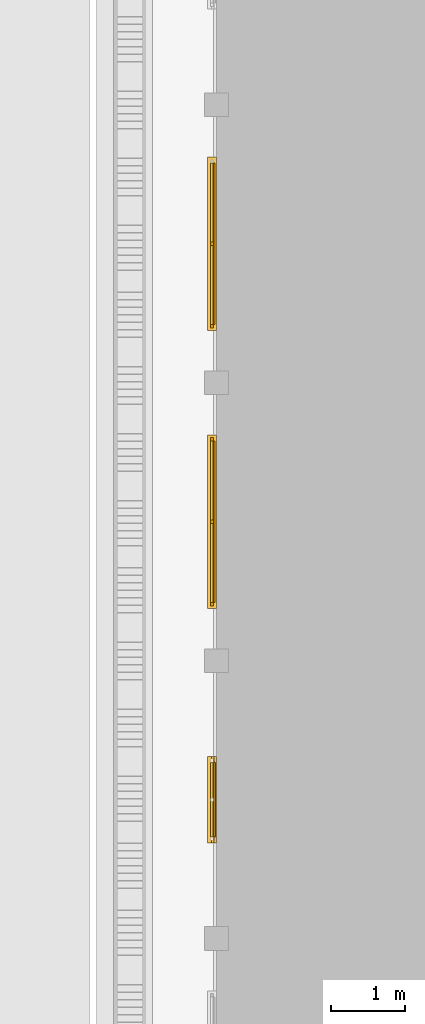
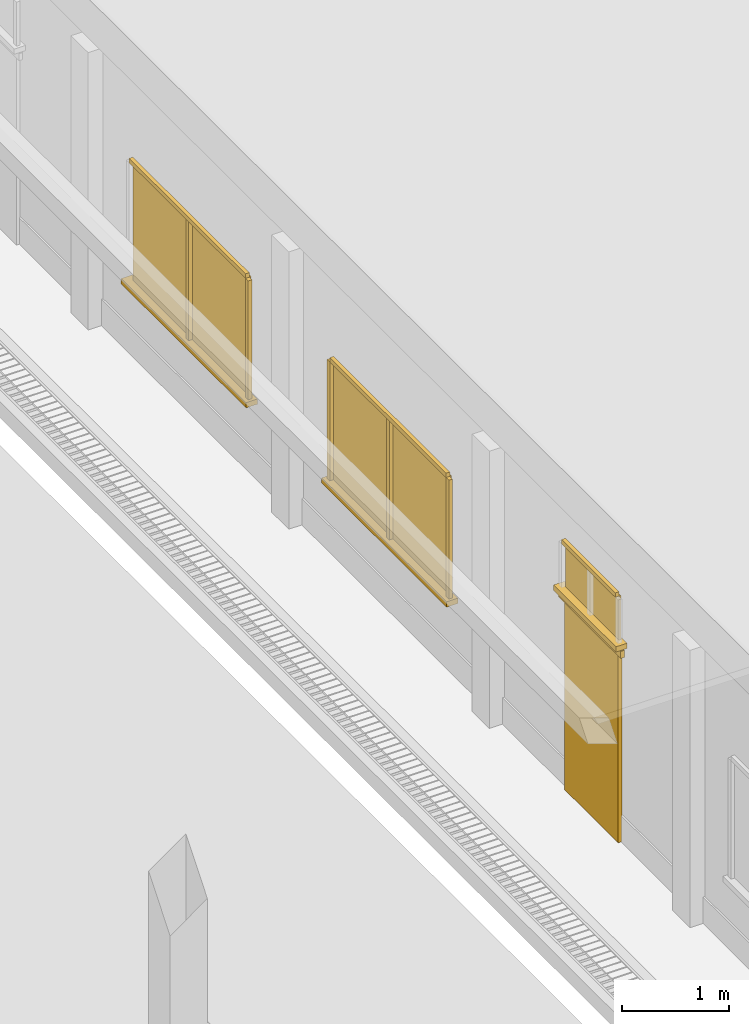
# One storey, part 36 of 151: 14 windows, 2 doors.
"""IFC2X3 building model written with IfcOpenShell, lengths in metres."""

from ifc_helpers import new_model, si_unit, origin, origin_with_axes, place, context, subcontext, project, spatial, faceted_brep, element, save


model = new_model("IFC2X3")

# Units and contexts
model_context = context("Model", 3, precision=1e-05, world=origin_with_axes())
body_context = subcontext(model_context, "Body", "Model", "MODEL_VIEW")
ifc_project = project(units=[si_unit("LENGTHUNIT", "METRE"), si_unit("AREAUNIT", "SQUARE_METRE"), si_unit("VOLUMEUNIT", "CUBIC_METRE"), si_unit("PLANEANGLEUNIT", "RADIAN")], contexts=[model_context])

# Site, building, storey
site_placement = place(None, origin_with_axes())
site = spatial("IfcSite", under=ifc_project, at=site_placement, Name="Predio Los Mangos - Morales, San Martín", CompositionType="ELEMENT")
building_placement = place(site_placement, origin())
building = spatial("IfcBuilding", under=site, at=building_placement, Name="Hogar de Refugio Temporal", CompositionType="ELEMENT")
storey_placement = place(building_placement, origin())
storey = spatial("IfcBuildingStorey", under=building, at=storey_placement, Name="NIVEL 1 (NPT +0.00)", CompositionType="ELEMENT", Elevation=0.0)

# Doors
door_1_placement = place(storey_placement, origin())
element("IfcDoor", 1, at=door_1_placement, inside=storey, Name="E-01_p1", ObjectType="Puerta", context=body_context, shape_type="Brep", body=[
    faceted_brep([(13.75, 31.4, 0.15), (13.75, 32.4, 0.15), (13.79, 32.4, 0.15), (13.79, 31.4, 0.15), (13.75, 31.4, 2.3), (13.79, 31.4, 2.3), (13.79, 32.4, 2.3), (13.75, 32.4, 2.3)], [[[0, 1, 2, 3]], [[4, 5, 6, 7]], [[0, 3, 5, 4]], [[3, 2, 6, 5]], [[2, 1, 7, 6]], [[1, 0, 4, 7]]]),
])
door_2_placement = place(storey_placement, origin())
element("IfcDoor", 2, at=door_2_placement, inside=storey, Name="E-01_p1_marco", ObjectType="Puerta", context=body_context, shape_type="Brep", body=[
    faceted_brep([(13.73, 31.32, 2.3), (13.73, 32.48, 2.3), (13.77, 32.48, 2.3), (13.77, 31.32, 2.3), (13.73, 31.32, 2.38), (13.77, 31.32, 2.38), (13.77, 32.48, 2.38), (13.73, 32.48, 2.38)], [[[0, 1, 2, 3]], [[4, 5, 6, 7]], [[0, 3, 5, 4]], [[3, 2, 6, 5]], [[2, 1, 7, 6]], [[1, 0, 4, 7]]]),
])

# Windows
window_1_placement = place(storey_placement, origin())
element("IfcWindow", 3, at=window_1_placement, inside=storey, Name="E-01_vt1_vid", ObjectType="Ventana", context=body_context, shape_type="Brep", body=[
    faceted_brep([(13.76, 31.4, 2.45), (13.76, 32.4, 2.45), (13.78, 32.4, 2.45), (13.78, 31.4, 2.45), (13.76, 31.4, 2.95), (13.78, 31.4, 2.95), (13.78, 32.4, 2.95), (13.76, 32.4, 2.95)], [[[0, 1, 2, 3]], [[4, 5, 6, 7]], [[0, 3, 5, 4]], [[3, 2, 6, 5]], [[2, 1, 7, 6]], [[1, 0, 4, 7]]]),
])
window_2_placement = place(storey_placement, origin())
element("IfcWindow", 4, at=window_2_placement, inside=storey, Name="E-01_vt1_m", ObjectType="Ventana", context=body_context, shape_type="Brep", body=[
    faceted_brep([(13.72, 31.4, 2.95), (13.72, 32.4, 2.95), (13.76, 32.4, 2.95), (13.76, 31.4, 2.95), (13.72, 31.4, 3.0), (13.76, 31.4, 3.0), (13.76, 32.4, 3.0), (13.72, 32.4, 3.0)], [[[0, 1, 2, 3]], [[4, 5, 6, 7]], [[0, 3, 5, 4]], [[3, 2, 6, 5]], [[2, 1, 7, 6]], [[1, 0, 4, 7]]]),
])
window_3_placement = place(storey_placement, origin())
element("IfcWindow", 5, at=window_3_placement, inside=storey, Name="E-01_vt1_alf", ObjectType="Ventana", context=body_context, shape_type="Brep", body=[
    faceted_brep([(13.8, 31.32, 2.39), (13.8, 32.48, 2.39), (13.68, 32.48, 2.39), (13.68, 31.32, 2.39), (13.8, 31.32, 2.45), (13.68, 31.32, 2.45), (13.68, 32.48, 2.45), (13.8, 32.48, 2.45)], [[[0, 1, 2, 3]], [[4, 5, 6, 7]], [[0, 3, 5, 4]], [[3, 2, 6, 5]], [[2, 1, 7, 6]], [[1, 0, 4, 7]]]),
])
window_4_placement = place(storey_placement, origin())
element("IfcWindow", 6, at=window_4_placement, inside=storey, Name="E-01_v2_vid", ObjectType="Ventana", context=body_context, shape_type="Brep", body=[
    faceted_brep([(13.76, 34.5507, 1.05), (13.76, 36.716, 1.05), (13.78, 36.716, 1.05), (13.78, 34.5507, 1.05), (13.76, 34.5507, 2.4), (13.78, 34.5507, 2.4), (13.78, 36.716, 2.4), (13.76, 36.716, 2.4)], [[[0, 1, 2, 3]], [[4, 5, 6, 7]], [[0, 3, 5, 4]], [[3, 2, 6, 5]], [[2, 1, 7, 6]], [[1, 0, 4, 7]]]),
])
window_5_placement = place(storey_placement, origin())
element("IfcWindow", 7, at=window_5_placement, inside=storey, Name="E-01_v2_m", ObjectType="Ventana", context=body_context, shape_type="Brep", body=[
    faceted_brep([(13.72, 34.5007, 1.05), (13.72, 34.5507, 1.05), (13.76, 34.5507, 1.05), (13.76, 34.5007, 1.05), (13.72, 34.5007, 2.4), (13.76, 34.5007, 2.4), (13.76, 34.5507, 2.4), (13.72, 34.5507, 2.4)], [[[0, 1, 2, 3]], [[4, 5, 6, 7]], [[0, 3, 5, 4]], [[3, 2, 6, 5]], [[2, 1, 7, 6]], [[1, 0, 4, 7]]]),
])
window_6_placement = place(storey_placement, origin())
element("IfcWindow", 8, at=window_6_placement, inside=storey, Name="E-01_v2_m", ObjectType="Ventana", context=body_context, shape_type="Brep", body=[
    faceted_brep([(13.72, 36.716, 1.05), (13.72, 36.766, 1.05), (13.76, 36.766, 1.05), (13.76, 36.716, 1.05), (13.72, 36.716, 2.4), (13.76, 36.716, 2.4), (13.76, 36.766, 2.4), (13.72, 36.766, 2.4)], [[[0, 1, 2, 3]], [[4, 5, 6, 7]], [[0, 3, 5, 4]], [[3, 2, 6, 5]], [[2, 1, 7, 6]], [[1, 0, 4, 7]]]),
])
window_7_placement = place(storey_placement, origin())
element("IfcWindow", 9, at=window_7_placement, inside=storey, Name="E-01_v2_m", ObjectType="Ventana", context=body_context, shape_type="Brep", body=[
    faceted_brep([(13.72, 34.5507, 2.4), (13.72, 36.716, 2.4), (13.76, 36.716, 2.4), (13.76, 34.5507, 2.4), (13.72, 34.5507, 2.45), (13.76, 34.5507, 2.45), (13.76, 36.716, 2.45), (13.72, 36.716, 2.45)], [[[0, 1, 2, 3]], [[4, 5, 6, 7]], [[0, 3, 5, 4]], [[3, 2, 6, 5]], [[2, 1, 7, 6]], [[1, 0, 4, 7]]]),
])
window_8_placement = place(storey_placement, origin())
element("IfcWindow", 10, at=window_8_placement, inside=storey, Name="E-01_v2_m", ObjectType="Ventana", context=body_context, shape_type="Brep", body=[
    faceted_brep([(13.72, 35.6083, 1.05), (13.72, 35.6583, 1.05), (13.76, 35.6583, 1.05), (13.76, 35.6083, 1.05), (13.72, 35.6083, 2.4), (13.76, 35.6083, 2.4), (13.76, 35.6583, 2.4), (13.72, 35.6583, 2.4)], [[[0, 1, 2, 3]], [[4, 5, 6, 7]], [[0, 3, 5, 4]], [[3, 2, 6, 5]], [[2, 1, 7, 6]], [[1, 0, 4, 7]]]),
])
window_9_placement = place(storey_placement, origin())
element("IfcWindow", 11, at=window_9_placement, inside=storey, Name="E-01_v2_alf", ObjectType="Ventana", context=body_context, shape_type="Brep", body=[
    faceted_brep([(13.8, 34.4707, 0.99), (13.8, 36.796, 0.99), (13.68, 36.796, 0.99), (13.68, 34.4707, 0.99), (13.8, 34.4707, 1.05), (13.68, 34.4707, 1.05), (13.68, 36.796, 1.05), (13.8, 36.796, 1.05)], [[[0, 1, 2, 3]], [[4, 5, 6, 7]], [[0, 3, 5, 4]], [[3, 2, 6, 5]], [[2, 1, 7, 6]], [[1, 0, 4, 7]]]),
])
window_10_placement = place(storey_placement, origin())
element("IfcWindow", 12, at=window_10_placement, inside=storey, Name="E-01_v3_vid", ObjectType="Ventana", context=body_context, shape_type="Brep", body=[
    faceted_brep([(13.76, 38.284, 1.05), (13.76, 40.4493, 1.05), (13.78, 40.4493, 1.05), (13.78, 38.284, 1.05), (13.76, 38.284, 2.4), (13.78, 38.284, 2.4), (13.78, 40.4493, 2.4), (13.76, 40.4493, 2.4)], [[[0, 1, 2, 3]], [[4, 5, 6, 7]], [[0, 3, 5, 4]], [[3, 2, 6, 5]], [[2, 1, 7, 6]], [[1, 0, 4, 7]]]),
])
window_11_placement = place(storey_placement, origin())
element("IfcWindow", 13, at=window_11_placement, inside=storey, Name="E-01_v3_m", ObjectType="Ventana", context=body_context, shape_type="Brep", body=[
    faceted_brep([(13.72, 38.234, 1.05), (13.72, 38.284, 1.05), (13.76, 38.284, 1.05), (13.76, 38.234, 1.05), (13.72, 38.234, 2.4), (13.76, 38.234, 2.4), (13.76, 38.284, 2.4), (13.72, 38.284, 2.4)], [[[0, 1, 2, 3]], [[4, 5, 6, 7]], [[0, 3, 5, 4]], [[3, 2, 6, 5]], [[2, 1, 7, 6]], [[1, 0, 4, 7]]]),
])
window_12_placement = place(storey_placement, origin())
element("IfcWindow", 14, at=window_12_placement, inside=storey, Name="E-01_v3_m", ObjectType="Ventana", context=body_context, shape_type="Brep", body=[
    faceted_brep([(13.72, 38.284, 2.4), (13.72, 40.4493, 2.4), (13.76, 40.4493, 2.4), (13.76, 38.284, 2.4), (13.72, 38.284, 2.45), (13.76, 38.284, 2.45), (13.76, 40.4493, 2.45), (13.72, 40.4493, 2.45)], [[[0, 1, 2, 3]], [[4, 5, 6, 7]], [[0, 3, 5, 4]], [[3, 2, 6, 5]], [[2, 1, 7, 6]], [[1, 0, 4, 7]]]),
])
window_13_placement = place(storey_placement, origin())
element("IfcWindow", 15, at=window_13_placement, inside=storey, Name="E-01_v3_m", ObjectType="Ventana", context=body_context, shape_type="Brep", body=[
    faceted_brep([(13.72, 39.3417, 1.05), (13.72, 39.3917, 1.05), (13.76, 39.3917, 1.05), (13.76, 39.3417, 1.05), (13.72, 39.3417, 2.4), (13.76, 39.3417, 2.4), (13.76, 39.3917, 2.4), (13.72, 39.3917, 2.4)], [[[0, 1, 2, 3]], [[4, 5, 6, 7]], [[0, 3, 5, 4]], [[3, 2, 6, 5]], [[2, 1, 7, 6]], [[1, 0, 4, 7]]]),
])
window_14_placement = place(storey_placement, origin())
element("IfcWindow", 16, at=window_14_placement, inside=storey, Name="E-01_v3_alf", ObjectType="Ventana", context=body_context, shape_type="Brep", body=[
    faceted_brep([(13.8, 38.204, 0.99), (13.8, 40.5293, 0.99), (13.68, 40.5293, 0.99), (13.68, 38.204, 0.99), (13.8, 38.204, 1.05), (13.68, 38.204, 1.05), (13.68, 40.5293, 1.05), (13.8, 40.5293, 1.05)], [[[0, 1, 2, 3]], [[4, 5, 6, 7]], [[0, 3, 5, 4]], [[3, 2, 6, 5]], [[2, 1, 7, 6]], [[1, 0, 4, 7]]]),
])

save(model, "model.ifc")
